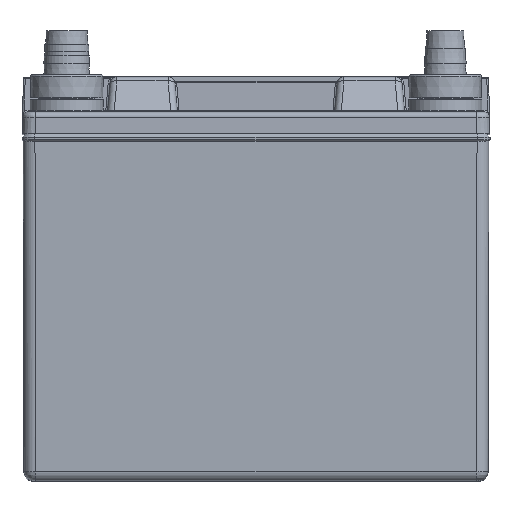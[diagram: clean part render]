
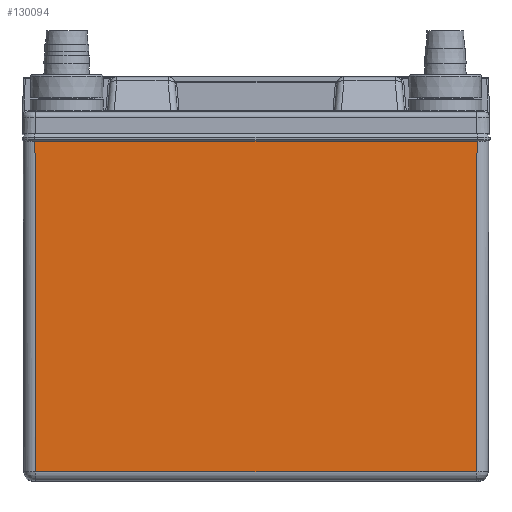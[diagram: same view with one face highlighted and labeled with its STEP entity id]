
A CAD part, top view. The second image highlights one B-rep face of the part: STEP entity #130094.
In plain terms, the highlighted planar face has unit normal (0, -0.004, 1).
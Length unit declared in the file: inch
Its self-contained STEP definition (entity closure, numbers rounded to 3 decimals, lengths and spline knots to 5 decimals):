
#2775 = CARTESIAN_POINT ( 'NONE',  ( 3.65827, 5.62203, 3.22203 ) ) ;
#4419 = EDGE_CURVE ( 'NONE', #92991, #23702, #30546, .T. ) ;
#10029 = CARTESIAN_POINT ( 'NONE',  ( -3.841, 0., 3.1975 ) ) ;
#11572 = DIRECTION ( 'NONE',  ( 0., -1., -0.004 ) ) ;
#11909 = VECTOR ( 'NONE', #81066, 39.37008 ) ;
#21806 = FACE_OUTER_BOUND ( 'NONE', #38269, .T. ) ;
#22788 = VECTOR ( 'NONE', #151688, 39.37008 ) ;
#23702 = VERTEX_POINT ( 'NONE', #145828 ) ;
#30386 = CARTESIAN_POINT ( 'NONE',  ( -3.841, 5.62203, 3.22203 ) ) ;
#30546 = LINE ( 'NONE', #139140, #22788 ) ;
#38269 = EDGE_LOOP ( 'NONE', ( #127728, #67102, #61901, #144879 ) ) ;
#61901 = ORIENTED_EDGE ( 'NONE', *, *, #4419, .T. ) ;
#63881 = VECTOR ( 'NONE', #78316, 39.37008 ) ;
#67102 = ORIENTED_EDGE ( 'NONE', *, *, #114005, .F. ) ;
#71383 = EDGE_CURVE ( 'NONE', #23702, #91874, #79537, .T. ) ;
#78316 = DIRECTION ( 'NONE',  ( 0.002, 1., 0.004 ) ) ;
#79537 = LINE ( 'NONE', #126002, #11909 ) ;
#81066 = DIRECTION ( 'NONE',  ( 1., 0., 0. ) ) ;
#81347 = CARTESIAN_POINT ( 'NONE',  ( 3.64633, 0.14935, 3.19815 ) ) ;
#83862 = EDGE_CURVE ( 'NONE', #91874, #118413, #139705, .T. ) ;
#91874 = VERTEX_POINT ( 'NONE', #81347 ) ;
#92991 = VERTEX_POINT ( 'NONE', #106692 ) ;
#106692 = CARTESIAN_POINT ( 'NONE',  ( -3.65827, 5.62203, 3.22203 ) ) ;
#112997 = DIRECTION ( 'NONE',  ( 1., 0., 0. ) ) ;
#114005 = EDGE_CURVE ( 'NONE', #92991, #118413, #124047, .T. ) ;
#117812 = PLANE ( 'NONE',  #145615 ) ;
#118413 = VERTEX_POINT ( 'NONE', #2775 ) ;
#119361 = DIRECTION ( 'NONE',  ( 0., -0.004, 1. ) ) ;
#120307 = VECTOR ( 'NONE', #112997, 39.37008 ) ;
#124047 = LINE ( 'NONE', #30386, #120307 ) ;
#126002 = CARTESIAN_POINT ( 'NONE',  ( -3.841, 0.14935, 3.19815 ) ) ;
#127728 = ORIENTED_EDGE ( 'NONE', *, *, #83862, .T. ) ;
#130094 = ADVANCED_FACE ( 'NONE', ( #21806 ), #117812, .T. ) ;
#138928 = CARTESIAN_POINT ( 'NONE',  ( 3.64597, -0.01633, 3.19743 ) ) ;
#139140 = CARTESIAN_POINT ( 'NONE',  ( -3.646, 0.00043, 3.1975 ) ) ;
#139705 = LINE ( 'NONE', #138928, #63881 ) ;
#144879 = ORIENTED_EDGE ( 'NONE', *, *, #71383, .T. ) ;
#145615 = AXIS2_PLACEMENT_3D ( 'NONE', #10029, #119361, #11572 ) ;
#145828 = CARTESIAN_POINT ( 'NONE',  ( -3.64633, 0.14935, 3.19815 ) ) ;
#151688 = DIRECTION ( 'NONE',  ( 0.002, -1., -0.004 ) ) ;
